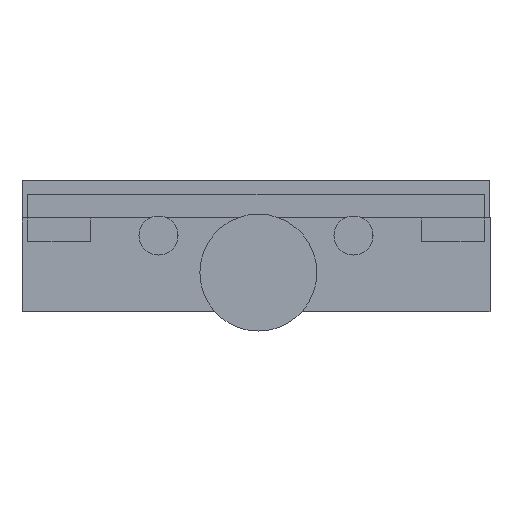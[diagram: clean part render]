
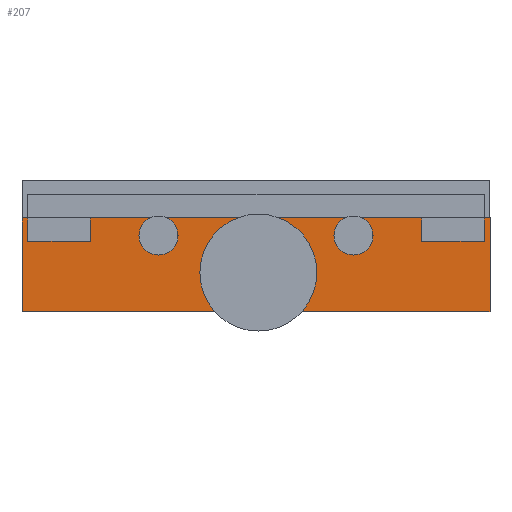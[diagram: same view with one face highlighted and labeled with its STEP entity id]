
A CAD part, front view. The second image highlights one B-rep face of the part: STEP entity #207.
In plain terms, the highlighted planar face has unit normal (0, -1, 0).
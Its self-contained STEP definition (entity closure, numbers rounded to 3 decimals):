
#207 = ADVANCED_FACE( '', ( #531, #532, #533, #534 ), #535, .T. );
#531 = FACE_OUTER_BOUND( '', #1074, .T. );
#532 = FACE_BOUND( '', #1075, .T. );
#533 = FACE_BOUND( '', #1076, .T. );
#534 = FACE_BOUND( '', #1077, .T. );
#535 = PLANE( '', #1078 );
#1074 = EDGE_LOOP( '', ( #1688, #1689, #1690, #1691, #1692, #1693, #1694, #1695, #1696, #1697, #1698, #1699 ) );
#1075 = EDGE_LOOP( '', ( #1700 ) );
#1076 = EDGE_LOOP( '', ( #1701 ) );
#1077 = EDGE_LOOP( '', ( #1702 ) );
#1078 = AXIS2_PLACEMENT_3D( '', #1703, #1704, #1705 );
#1688 = ORIENTED_EDGE( '', *, *, #2681, .T. );
#1689 = ORIENTED_EDGE( '', *, *, #2682, .T. );
#1690 = ORIENTED_EDGE( '', *, *, #2683, .T. );
#1691 = ORIENTED_EDGE( '', *, *, #2684, .T. );
#1692 = ORIENTED_EDGE( '', *, *, #2685, .T. );
#1693 = ORIENTED_EDGE( '', *, *, #2686, .T. );
#1694 = ORIENTED_EDGE( '', *, *, #2687, .T. );
#1695 = ORIENTED_EDGE( '', *, *, #2667, .F. );
#1696 = ORIENTED_EDGE( '', *, *, #2688, .T. );
#1697 = ORIENTED_EDGE( '', *, *, #2689, .F. );
#1698 = ORIENTED_EDGE( '', *, *, #2690, .T. );
#1699 = ORIENTED_EDGE( '', *, *, #2691, .T. );
#1700 = ORIENTED_EDGE( '', *, *, #2692, .T. );
#1701 = ORIENTED_EDGE( '', *, *, #2693, .T. );
#1702 = ORIENTED_EDGE( '', *, *, #2694, .T. );
#1703 = CARTESIAN_POINT( '', ( 0., -30., 0. ) );
#1704 = DIRECTION( '', ( 0., -1., 0. ) );
#1705 = DIRECTION( '', ( 1., 0., 0. ) );
#2667 = EDGE_CURVE( '', #3126, #3108, #3128, .T. );
#2681 = EDGE_CURVE( '', #3148, #3149, #3150, .T. );
#2682 = EDGE_CURVE( '', #3149, #3151, #3152, .T. );
#2683 = EDGE_CURVE( '', #3151, #3153, #3154, .T. );
#2684 = EDGE_CURVE( '', #3153, #3155, #3156, .T. );
#2685 = EDGE_CURVE( '', #3155, #3157, #3158, .T. );
#2686 = EDGE_CURVE( '', #3157, #3159, #3160, .T. );
#2687 = EDGE_CURVE( '', #3159, #3108, #3161, .T. );
#2688 = EDGE_CURVE( '', #3126, #3162, #3163, .T. );
#2689 = EDGE_CURVE( '', #3164, #3162, #3165, .T. );
#2690 = EDGE_CURVE( '', #3164, #3166, #3167, .T. );
#2691 = EDGE_CURVE( '', #3166, #3148, #3168, .T. );
#2692 = EDGE_CURVE( '', #3169, #3169, #3170, .T. );
#2693 = EDGE_CURVE( '', #3171, #3171, #3172, .T. );
#2694 = EDGE_CURVE( '', #3173, #3173, #3174, .T. );
#3108 = VERTEX_POINT( '', #3773 );
#3126 = VERTEX_POINT( '', #3800 );
#3128 = LINE( '', #3803, #3804 );
#3148 = VERTEX_POINT( '', #3827 );
#3149 = VERTEX_POINT( '', #3828 );
#3150 = LINE( '', #3829, #3830 );
#3151 = VERTEX_POINT( '', #3831 );
#3152 = LINE( '', #3832, #3833 );
#3153 = VERTEX_POINT( '', #3834 );
#3154 = LINE( '', #3835, #3836 );
#3155 = VERTEX_POINT( '', #3837 );
#3156 = LINE( '', #3838, #3839 );
#3157 = VERTEX_POINT( '', #3840 );
#3158 = LINE( '', #3841, #3842 );
#3159 = VERTEX_POINT( '', #3843 );
#3160 = LINE( '', #3844, #3845 );
#3161 = LINE( '', #3846, #3847 );
#3162 = VERTEX_POINT( '', #3848 );
#3163 = LINE( '', #3849, #3850 );
#3164 = VERTEX_POINT( '', #3851 );
#3165 = LINE( '', #3852, #3853 );
#3166 = VERTEX_POINT( '', #3854 );
#3167 = LINE( '', #3855, #3856 );
#3168 = LINE( '', #3857, #3858 );
#3169 = VERTEX_POINT( '', #3859 );
#3170 = CIRCLE( '', #3860, 2. );
#3171 = VERTEX_POINT( '', #3861 );
#3172 = CIRCLE( '', #3862, 2. );
#3173 = VERTEX_POINT( '', #3863 );
#3174 = CIRCLE( '', #3864, 5.75 );
#3773 = CARTESIAN_POINT( '', ( -60., -30., 24. ) );
#3800 = CARTESIAN_POINT( '', ( -60., -30., 0. ) );
#3803 = CARTESIAN_POINT( '', ( -60., -30., 0. ) );
#3804 = VECTOR( '', #4574, 1000. );
#3827 = CARTESIAN_POINT( '', ( 58.5, -30., 18. ) );
#3828 = CARTESIAN_POINT( '', ( 42.5, -30., 18. ) );
#3829 = CARTESIAN_POINT( '', ( 50.5, -30., 18. ) );
#3830 = VECTOR( '', #4593, 1000. );
#3831 = CARTESIAN_POINT( '', ( 42.5, -30., 24. ) );
#3832 = CARTESIAN_POINT( '', ( 42.5, -30., 21. ) );
#3833 = VECTOR( '', #4594, 1000. );
#3834 = CARTESIAN_POINT( '', ( -42.5, -30., 24. ) );
#3835 = CARTESIAN_POINT( '', ( 0., -30., 24. ) );
#3836 = VECTOR( '', #4595, 1000. );
#3837 = CARTESIAN_POINT( '', ( -42.5, -30., 18. ) );
#3838 = CARTESIAN_POINT( '', ( -42.5, -30., 21. ) );
#3839 = VECTOR( '', #4596, 1000. );
#3840 = CARTESIAN_POINT( '', ( -58.5, -30., 18. ) );
#3841 = CARTESIAN_POINT( '', ( -50.5, -30., 18. ) );
#3842 = VECTOR( '', #4597, 1000. );
#3843 = CARTESIAN_POINT( '', ( -58.5, -30., 24. ) );
#3844 = CARTESIAN_POINT( '', ( -58.5, -30., 21. ) );
#3845 = VECTOR( '', #4598, 1000. );
#3846 = CARTESIAN_POINT( '', ( 0., -30., 24. ) );
#3847 = VECTOR( '', #4599, 1000. );
#3848 = CARTESIAN_POINT( '', ( 60., -30., 0. ) );
#3849 = CARTESIAN_POINT( '', ( 15., -30., 0. ) );
#3850 = VECTOR( '', #4600, 1000. );
#3851 = CARTESIAN_POINT( '', ( 60., -30., 24. ) );
#3852 = CARTESIAN_POINT( '', ( 60., -30., 0. ) );
#3853 = VECTOR( '', #4601, 1000. );
#3854 = CARTESIAN_POINT( '', ( 58.5, -30., 24. ) );
#3855 = CARTESIAN_POINT( '', ( 0., -30., 24. ) );
#3856 = VECTOR( '', #4602, 1000. );
#3857 = CARTESIAN_POINT( '', ( 58.5, -30., 21. ) );
#3858 = VECTOR( '', #4603, 1000. );
#3859 = CARTESIAN_POINT( '', ( 25., -30., 17.5 ) );
#3860 = AXIS2_PLACEMENT_3D( '', #4604, #4605, #4606 );
#3861 = CARTESIAN_POINT( '', ( -25., -30., 17.5 ) );
#3862 = AXIS2_PLACEMENT_3D( '', #4607, #4608, #4609 );
#3863 = CARTESIAN_POINT( '', ( 0., -30., 4.25 ) );
#3864 = AXIS2_PLACEMENT_3D( '', #4610, #4611, #4612 );
#4574 = DIRECTION( '', ( 0., 0., 1. ) );
#4593 = DIRECTION( '', ( -1., 0., 0. ) );
#4594 = DIRECTION( '', ( 0., 0., 1. ) );
#4595 = DIRECTION( '', ( -1., 0., 0. ) );
#4596 = DIRECTION( '', ( 0., 0., -1. ) );
#4597 = DIRECTION( '', ( -1., 0., 0. ) );
#4598 = DIRECTION( '', ( 0., 0., 1. ) );
#4599 = DIRECTION( '', ( -1., 0., 0. ) );
#4600 = DIRECTION( '', ( 1., 0., 0. ) );
#4601 = DIRECTION( '', ( 0., 0., -1. ) );
#4602 = DIRECTION( '', ( -1., 0., 0. ) );
#4603 = DIRECTION( '', ( 0., 0., -1. ) );
#4604 = CARTESIAN_POINT( '', ( 25., -30., 19.5 ) );
#4605 = DIRECTION( '', ( 0., 1., 0. ) );
#4606 = DIRECTION( '', ( 0., 0., -1. ) );
#4607 = CARTESIAN_POINT( '', ( -25., -30., 19.5 ) );
#4608 = DIRECTION( '', ( 0., 1., 0. ) );
#4609 = DIRECTION( '', ( 0., 0., -1. ) );
#4610 = CARTESIAN_POINT( '', ( 0., -30., 10. ) );
#4611 = DIRECTION( '', ( 0., 1., 0. ) );
#4612 = DIRECTION( '', ( 0., 0., -1. ) );
